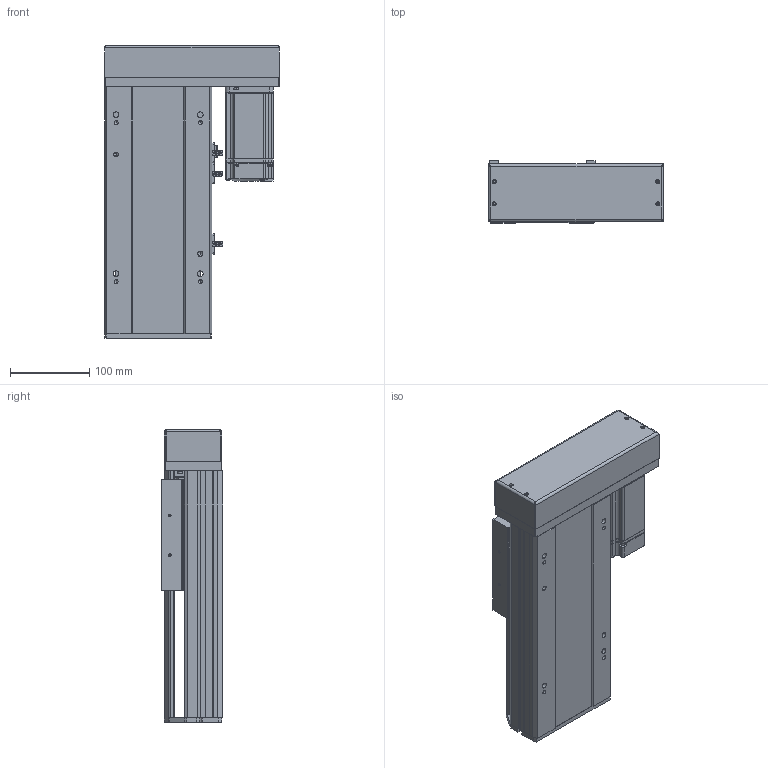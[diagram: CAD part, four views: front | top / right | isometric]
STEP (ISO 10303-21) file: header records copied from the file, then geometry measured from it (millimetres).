
FILE_DESCRIPTION (( 'STEP AP214' ), '1' );
FILE_NAME ('QTH14-100-BL-P40.STEP', '2021-11-13T04:19:54', ( '' ), ( '' ), 'SwSTEP 2.0', 'SolidWorks 2020', '' );
FILE_SCHEMA (( 'AUTOMOTIVE_DESIGN' ));
Length unit declared in the file: millimetre
Products named in the file (6): QTH14-100-BL-P40; 葩璃 QTH14-BL-002 奻裔MZ-135-02^QTH14-BL-P40; 葩璃 QTH14-BC-005 賑釱MZ-135-03 ^QTH14-BL-P40_SFA16; 葩璃 400W^QTH14-BL-P40; 葩璃 pm-t65-672^QTH14-BL-P40; 葩璃 QTH14-BL-001 菁釱MZ-135-01^QTH14-BL-P40
Assembly tree (7 placements, depth 2):
  QTH14-100-BL-P40
    葩璃 QTH14-BL-001 菁釱MZ-135-01^QTH14-BL-P40
    葩璃 QTH14-BL-002 奻裔MZ-135-02^QTH14-BL-P40
    葩璃 QTH14-BC-005 賑釱MZ-135-03 ^QTH14-BL-P40_SFA16
    葩璃 pm-t65-672^QTH14-BL-P40  x3
    葩璃 400W^QTH14-BL-P40
Bounding box: 220 x 78 x 368.5 mm (x, y, z)
Volume: 3036252.6 mm3; surface area: 468362.7 mm2
Topology: 12 solids, 12 shells, 1237 faces, 3286 edges, 2120 vertices
Faces by surface type: plane 723, cylinder 404, cone 84, bspline 26
Entity records: 32838 total; most frequent: CARTESIAN_POINT 6245, DIRECTION 5387, ORIENTED_EDGE 5196, EDGE_CURVE 2598, AXIS2_PLACEMENT_3D 1840, VECTOR 1707, LINE 1707, VERTEX_POINT 1696
